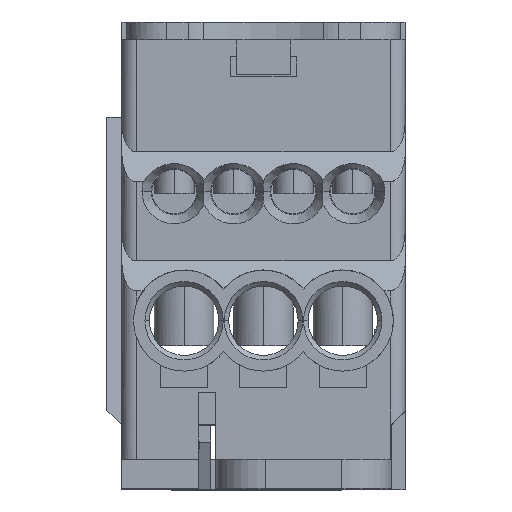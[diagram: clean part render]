
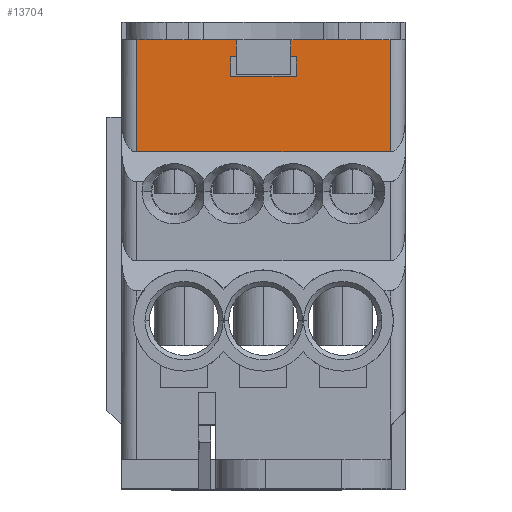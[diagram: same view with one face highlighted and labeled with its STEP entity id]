
A CAD part, top view. The second image highlights one B-rep face of the part: STEP entity #13704.
In plain terms, the highlighted planar face has unit normal (0, 0, 1).
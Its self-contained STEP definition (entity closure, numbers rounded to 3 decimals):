
#3439 = LINE ( 'NONE', #3440, #4416 ) ;
#3440 = CARTESIAN_POINT ( 'NONE',  ( 12.8, 40.6, 16. ) ) ;
#3441 = DIRECTION ( 'NONE',  ( 0., 1., 0. ) ) ;
#3442 = LINE ( 'NONE', #3443, #4417 ) ;
#3443 = CARTESIAN_POINT ( 'NONE',  ( 14.3, 27.5, 16. ) ) ;
#3444 = DIRECTION ( 'NONE',  ( -1., 0., 0. ) ) ;
#3445 = LINE ( 'NONE', #3446, #4418 ) ;
#3446 = CARTESIAN_POINT ( 'NONE',  ( -12.8, 27.5, 16. ) ) ;
#3447 = DIRECTION ( 'NONE',  ( 0., -1., 0. ) ) ;
#3448 = LINE ( 'NONE', #3449, #4419 ) ;
#3449 = CARTESIAN_POINT ( 'NONE',  ( 3.3, 37.1, 16. ) ) ;
#3450 = DIRECTION ( 'NONE',  ( 0., 1., 0. ) ) ;
#3451 = LINE ( 'NONE', #3452, #4420 ) ;
#3452 = CARTESIAN_POINT ( 'NONE',  ( -3.3, 37.1, 16. ) ) ;
#3453 = DIRECTION ( 'NONE',  ( -1., 0., 0. ) ) ;
#3454 = LINE ( 'NONE', #3455, #4421 ) ;
#3455 = CARTESIAN_POINT ( 'NONE',  ( -3.3, 35.1, 16. ) ) ;
#3456 = DIRECTION ( 'NONE',  ( 1., 0., 0. ) ) ;
#3457 = LINE ( 'NONE', #3458, #4422 ) ;
#3458 = CARTESIAN_POINT ( 'NONE',  ( -3.3, 37.1, 16. ) ) ;
#3459 = DIRECTION ( 'NONE',  ( 0., -1., 0. ) ) ;
#4416 = VECTOR ( 'NONE', #3441, 1000. ) ;
#4417 = VECTOR ( 'NONE', #3444, 1000. ) ;
#4418 = VECTOR ( 'NONE', #3447, 1000. ) ;
#4419 = VECTOR ( 'NONE', #3450, 1000. ) ;
#4420 = VECTOR ( 'NONE', #3453, 1000. ) ;
#4421 = VECTOR ( 'NONE', #3456, 1000. ) ;
#4422 = VECTOR ( 'NONE', #3459, 1000. ) ;
#5039 = LINE ( 'NONE', #5040, #6121 ) ;
#5040 = CARTESIAN_POINT ( 'NONE',  ( 14.3, 38.8, 16. ) ) ;
#5041 = DIRECTION ( 'NONE',  ( 1., 0., 0. ) ) ;
#6121 = VECTOR ( 'NONE', #5041, 1000. ) ;
#6672 = CARTESIAN_POINT ( 'NONE',  ( -3.3, 35.1, 16. ) ) ;
#6681 = CARTESIAN_POINT ( 'NONE',  ( 12.8, 27.5, 16. ) ) ;
#6708 = CARTESIAN_POINT ( 'NONE',  ( 3.3, 35.1, 16. ) ) ;
#6738 = CARTESIAN_POINT ( 'NONE',  ( -3.3, 37.1, 16. ) ) ;
#6772 = CARTESIAN_POINT ( 'NONE',  ( -12.8, 27.5, 16. ) ) ;
#6773 = CARTESIAN_POINT ( 'NONE',  ( 3.3, 37.1, 16. ) ) ;
#6802 = CARTESIAN_POINT ( 'NONE',  ( 12.8, 38.8, 16. ) ) ;
#6997 = CARTESIAN_POINT ( 'NONE',  ( -12.8, 38.8, 16. ) ) ;
#7556 = PLANE ( 'NONE',  #8128 ) ;
#7557 = CARTESIAN_POINT ( 'NONE',  ( 14.3, 27.5, 16. ) ) ;
#7558 = DIRECTION ( 'NONE',  ( 0., 0., -1. ) ) ;
#7559 = DIRECTION ( 'NONE',  ( -1., 0., 0. ) ) ;
#8121 = FACE_BOUND ( 'NONE', #13126, .T. ) ;
#8125 = FACE_OUTER_BOUND ( 'NONE', #13127, .T. ) ;
#8128 = AXIS2_PLACEMENT_3D ( 'NONE', #7557, #7558, #7559 ) ;
#9143 = ORIENTED_EDGE ( 'NONE', *, *, #9380, .T. ) ;
#9144 = ORIENTED_EDGE ( 'NONE', *, *, #9807, .F. ) ;
#9145 = ORIENTED_EDGE ( 'NONE', *, *, #9382, .T. ) ;
#9146 = ORIENTED_EDGE ( 'NONE', *, *, #9381, .F. ) ;
#9147 = ORIENTED_EDGE ( 'NONE', *, *, #9383, .F. ) ;
#9148 = ORIENTED_EDGE ( 'NONE', *, *, #9386, .F. ) ;
#9149 = ORIENTED_EDGE ( 'NONE', *, *, #9384, .F. ) ;
#9150 = ORIENTED_EDGE ( 'NONE', *, *, #9385, .F. ) ;
#9380 = EDGE_CURVE ( 'NONE', #10620, #10741, #3439, .T. ) ;
#9381 = EDGE_CURVE ( 'NONE', #10620, #10711, #3442, .T. ) ;
#9382 = EDGE_CURVE ( 'NONE', #10936, #10711, #3445, .T. ) ;
#9383 = EDGE_CURVE ( 'NONE', #10647, #10712, #3448, .T. ) ;
#9384 = EDGE_CURVE ( 'NONE', #10712, #10677, #3451, .T. ) ;
#9385 = EDGE_CURVE ( 'NONE', #10611, #10647, #3454, .T. ) ;
#9386 = EDGE_CURVE ( 'NONE', #10677, #10611, #3457, .T. ) ;
#9807 = EDGE_CURVE ( 'NONE', #10936, #10741, #5039, .T. ) ;
#10611 = VERTEX_POINT ( 'NONE', #6672 ) ;
#10620 = VERTEX_POINT ( 'NONE', #6681 ) ;
#10647 = VERTEX_POINT ( 'NONE', #6708 ) ;
#10677 = VERTEX_POINT ( 'NONE', #6738 ) ;
#10711 = VERTEX_POINT ( 'NONE', #6772 ) ;
#10712 = VERTEX_POINT ( 'NONE', #6773 ) ;
#10741 = VERTEX_POINT ( 'NONE', #6802 ) ;
#10936 = VERTEX_POINT ( 'NONE', #6997 ) ;
#13126 = EDGE_LOOP ( 'NONE', ( #9150, #9148, #9149, #9147 ) ) ;
#13127 = EDGE_LOOP ( 'NONE', ( #9144, #9145, #9146, #9143 ) ) ;
#13704 = ADVANCED_FACE ( 'NONE', ( #8121, #8125 ), #7556, .F. ) ;
